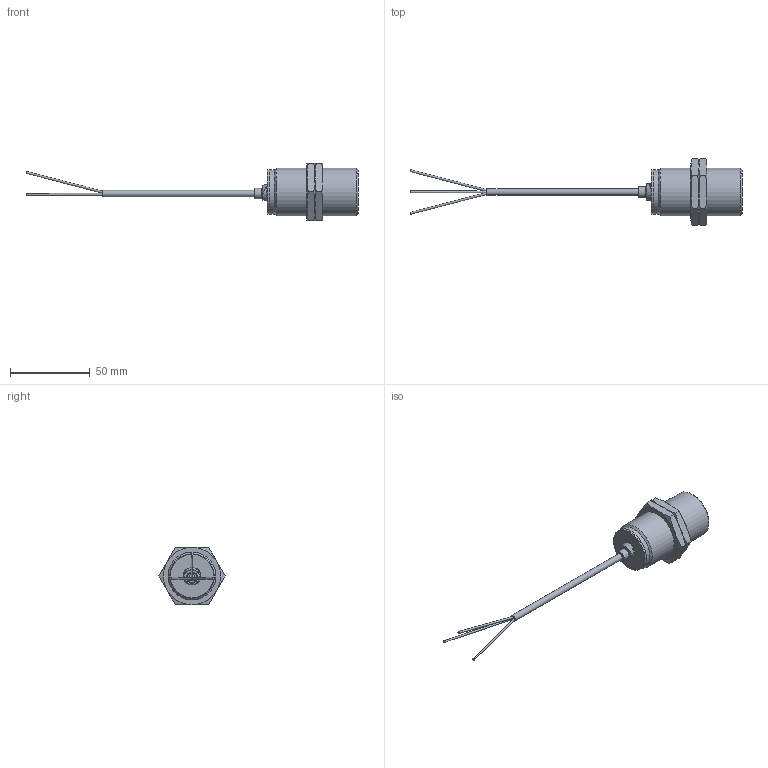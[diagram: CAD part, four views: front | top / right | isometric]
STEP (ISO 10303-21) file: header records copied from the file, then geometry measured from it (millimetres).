
FILE_DESCRIPTION( ( 'STEP AP203' ), '1' );
FILE_NAME( '//expscmdclustefs.cadenas.external/client_exchange/iodir/jobs/output/wkb81176575_no0/STEP/IIS238_2_03.stp', ' ', ( ' ' ), ( ' ' ), 'PSStep 15.0.47', 'PARTsolutions', ' ' );
FILE_SCHEMA( ( 'CONFIG_CONTROL_DESIGN' ) );
Length unit declared in the file: millimetre
Products named in the file (3): IIS238; _IIS238_part1; _SW36-L5-M30x1.5
Assembly tree (3 placements, depth 2):
  IIS238
    _IIS238_part1
    _SW36-L5-M30x1.5  x2
Bounding box: 208.29 x 41.57 x 36 mm (x, y, z)
Volume: 46204.8 mm3; surface area: 12415.1 mm2
Topology: 3 solids, 3 shells, 58 faces, 119 edges, 76 vertices
Faces by surface type: plane 27, cylinder 13, cone 11, torus 7
Full cylindrical faces by diameter (mm): 1.25 x3, 4 x1, 6.6 x1, 27.3 x1, 27.36 x1, 27.8 x1, 27.86 x1, 28.376 x2, 30 x1
Entity records: 1302 total; most frequent: CARTESIAN_POINT 364, DIRECTION 180, ORIENTED_EDGE 128, AXIS2_PLACEMENT_3D 87, EDGE_LOOP 77, EDGE_CURVE 64, FACE_OUTER_BOUND 60, VERTEX_POINT 53
